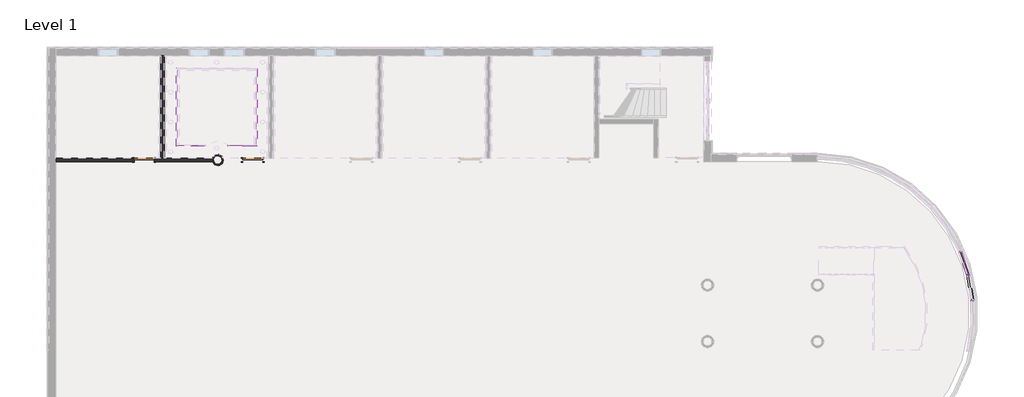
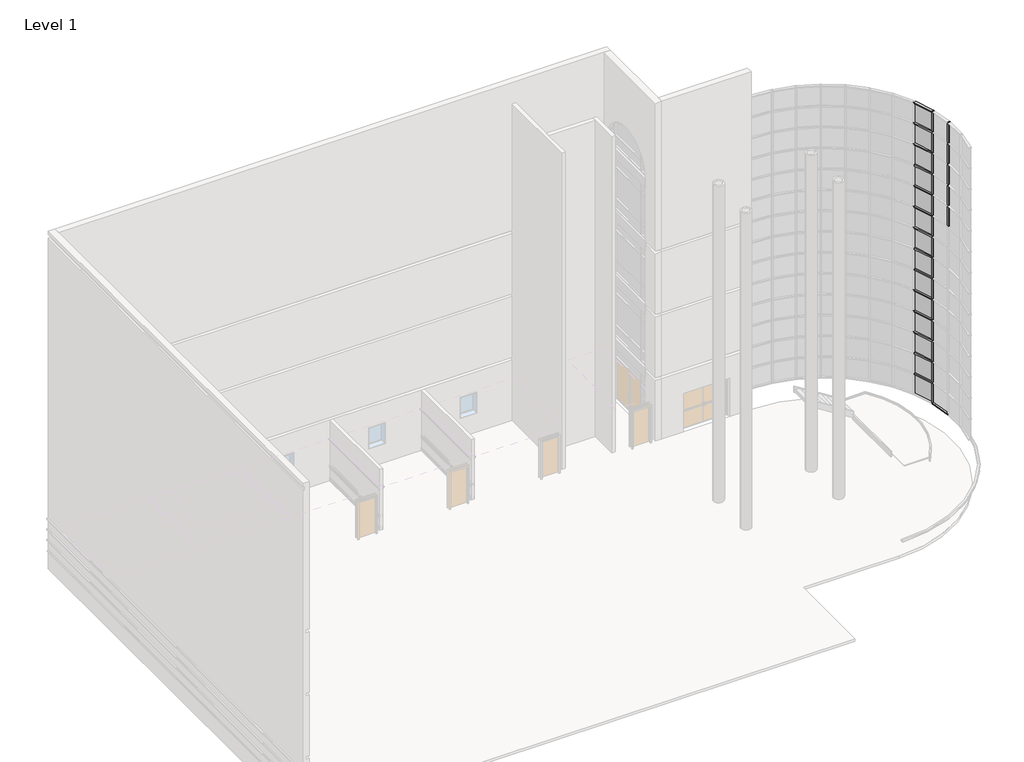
# One storey, part 9 of 20: 34 members, 14 plates, 8 walls, 2 doors.
"""IFC4 building model written with IfcOpenShell, lengths in millimetres."""

from ifc_helpers import new_model, si_unit, frame, origin, place, context, project, spatial, polyline, circle_curve, faceted_brep, transform, mapped, element, save
from ifc_brep_helpers import plane_surface, cylinder_surface, revolved_surface, advanced_brep
from components import door_f9494b7c, member_68fe8548, member_f830fa99, member_935f61b8, system_panel_glazed_da602fa6, system_panel_glazed_77fd207e

model = new_model("IFC4")

# Units and contexts
model_context = context("Model", 3, world=origin())
ifc_project = project(units=[si_unit("LENGTHUNIT", "METRE", prefix="MILLI")], contexts=[model_context])

# Site, building, storey
site = spatial("IfcSite", under=ifc_project)
building = spatial("IfcBuilding", under=site)
storey = spatial("IfcBuildingStorey", under=building, Name="Level 1", Elevation=0.0)

# Doors
placement = place(None, origin())
door_shape = door_f9494b7c(model_context)
element("IfcDoor", 1, ObjectType="Single-Flush : 36\" x 84\"", at=placement, inside=storey, context=model_context, shape_type="MappedRepresentation", body=[
    mapped(door_shape, transform((-13002.9701946, 4534.7523319, 0.0), x_axis=(1.0, 0.0, 0.0), y_axis=(0.0, 1.0, 0.0), z_axis=(0.0, 0.0, 1.0))),
])
element("IfcDoor", 2, ObjectType="Single-Flush : 36\" x 84\"", at=placement, inside=storey, context=model_context, shape_type="MappedRepresentation", body=[
    mapped(door_shape, transform((-8010.8118612, 4534.7523319, 0.0), x_axis=(1.0, 0.0, 0.0), y_axis=(0.0, 1.0, 0.0), z_axis=(0.0, 0.0, 1.0))),
])

# Members
member_shape = member_68fe8548(model_context)
element("IfcMember", 3, ObjectType="Rectangular Mullion : 2.5\" x 5\" rectangular", at=placement, inside=storey, context=model_context, shape_type="MappedRepresentation", body=[
    mapped(member_shape, transform((24848.1611453, -723.2626476, 17983.2), x_axis=(0.0, 0.0, 1.0), y_axis=(-0.9458172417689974, -0.32469946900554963, 0.0), z_axis=(0.32469946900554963, -0.9458172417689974, 0.0))),
])
element("IfcMember", 4, ObjectType="Rectangular Mullion : 2.5\" x 5\" rectangular", at=placement, inside=storey, context=model_context, shape_type="MappedRepresentation", body=[
    mapped(member_shape, transform((24863.6962317, -784.6093164, 1092.2), x_axis=(0.0, 0.0, -1.0), y_axis=(-0.9863613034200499, -0.1645945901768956, 0.0), z_axis=(-0.1645945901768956, 0.9863613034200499, 0.0))),
])
member_2_shape = member_f830fa99(model_context)
element("IfcMember", 5, ObjectType="Rectangular Mullion : 2.5\" x 5\" rectangular", at=placement, inside=storey, context=model_context, shape_type="MappedRepresentation", body=[
    mapped(member_2_shape, transform((24848.1611453, -723.2626476, 2298.7), x_axis=(0.0, 0.0, 1.0), y_axis=(-0.945817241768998, -0.32469946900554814, 0.0), z_axis=(0.32469946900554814, -0.945817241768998, 0.0))),
])
element("IfcMember", 6, ObjectType="Rectangular Mullion : 2.5\" x 5\" rectangular", at=placement, inside=storey, context=model_context, shape_type="MappedRepresentation", body=[
    mapped(member_2_shape, transform((24848.1611453, -723.2626476, 3505.2), x_axis=(0.0, 0.0, 1.0), y_axis=(-0.9458172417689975, -0.3246994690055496, 0.0), z_axis=(0.3246994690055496, -0.9458172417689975, 0.0))),
])
element("IfcMember", 7, ObjectType="Rectangular Mullion : 2.5\" x 5\" rectangular", at=placement, inside=storey, context=model_context, shape_type="MappedRepresentation", body=[
    mapped(member_2_shape, transform((24848.1611453, -723.2626476, 4711.7), x_axis=(0.0, 0.0, 1.0), y_axis=(-0.9458172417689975, -0.3246994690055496, 0.0), z_axis=(0.3246994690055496, -0.9458172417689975, 0.0))),
])
element("IfcMember", 8, ObjectType="Rectangular Mullion : 2.5\" x 5\" rectangular", at=placement, inside=storey, context=model_context, shape_type="MappedRepresentation", body=[
    mapped(member_2_shape, transform((24848.1611453, -723.2626476, 5918.2), x_axis=(0.0, 0.0, 1.0), y_axis=(-0.9458172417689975, -0.3246994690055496, 0.0), z_axis=(0.3246994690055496, -0.9458172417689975, 0.0))),
])
element("IfcMember", 9, ObjectType="Rectangular Mullion : 2.5\" x 5\" rectangular", at=placement, inside=storey, context=model_context, shape_type="MappedRepresentation", body=[
    mapped(member_2_shape, transform((24848.1611453, -723.2626476, 7124.7), x_axis=(0.0, 0.0, 1.0), y_axis=(-0.9458172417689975, -0.32469946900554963, 0.0), z_axis=(0.3246994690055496, -0.9458172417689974, 0.0))),
])
element("IfcMember", 10, ObjectType="Rectangular Mullion : 2.5\" x 5\" rectangular", at=placement, inside=storey, context=model_context, shape_type="MappedRepresentation", body=[
    mapped(member_2_shape, transform((24848.1611453, -723.2626476, 8331.2), x_axis=(0.0, 0.0, 1.0), y_axis=(-0.9458172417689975, -0.32469946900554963, 0.0), z_axis=(0.3246994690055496, -0.9458172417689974, 0.0))),
])
element("IfcMember", 11, ObjectType="Rectangular Mullion : 2.5\" x 5\" rectangular", at=placement, inside=storey, context=model_context, shape_type="MappedRepresentation", body=[
    mapped(member_2_shape, transform((24848.1611453, -723.2626476, 9537.7), x_axis=(0.0, 0.0, 1.0), y_axis=(-0.9458172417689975, -0.32469946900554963, 0.0), z_axis=(0.3246994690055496, -0.9458172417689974, 0.0))),
])
element("IfcMember", 12, ObjectType="Rectangular Mullion : 2.5\" x 5\" rectangular", at=placement, inside=storey, context=model_context, shape_type="MappedRepresentation", body=[
    mapped(member_2_shape, transform((24848.1611453, -723.2626476, 10744.2), x_axis=(0.0, 0.0, 1.0), y_axis=(-0.9458172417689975, -0.32469946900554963, 0.0), z_axis=(0.3246994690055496, -0.9458172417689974, 0.0))),
])
element("IfcMember", 13, ObjectType="Rectangular Mullion : 2.5\" x 5\" rectangular", at=placement, inside=storey, context=model_context, shape_type="MappedRepresentation", body=[
    mapped(member_2_shape, transform((24848.1611453, -723.2626476, 11950.7), x_axis=(0.0, 0.0, 1.0), y_axis=(-0.9458172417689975, -0.32469946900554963, 0.0), z_axis=(0.3246994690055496, -0.9458172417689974, 0.0))),
])
element("IfcMember", 14, ObjectType="Rectangular Mullion : 2.5\" x 5\" rectangular", at=placement, inside=storey, context=model_context, shape_type="MappedRepresentation", body=[
    mapped(member_2_shape, transform((24848.1611453, -723.2626476, 13157.2), x_axis=(0.0, 0.0, 1.0), y_axis=(-0.9458172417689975, -0.32469946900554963, 0.0), z_axis=(0.3246994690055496, -0.9458172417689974, 0.0))),
])
element("IfcMember", 15, ObjectType="Rectangular Mullion : 2.5\" x 5\" rectangular", at=placement, inside=storey, context=model_context, shape_type="MappedRepresentation", body=[
    mapped(member_2_shape, transform((24848.1611453, -723.2626476, 14363.7), x_axis=(0.0, 0.0, 1.0), y_axis=(-0.9458172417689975, -0.32469946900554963, 0.0), z_axis=(0.3246994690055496, -0.9458172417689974, 0.0))),
])
element("IfcMember", 16, ObjectType="Rectangular Mullion : 2.5\" x 5\" rectangular", at=placement, inside=storey, context=model_context, shape_type="MappedRepresentation", body=[
    mapped(member_2_shape, transform((24848.1611453, -723.2626476, 15570.2), x_axis=(0.0, 0.0, 1.0), y_axis=(-0.9458172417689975, -0.32469946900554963, 0.0), z_axis=(0.3246994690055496, -0.9458172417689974, 0.0))),
])
element("IfcMember", 17, ObjectType="Rectangular Mullion : 2.5\" x 5\" rectangular", at=placement, inside=storey, context=model_context, shape_type="MappedRepresentation", body=[
    mapped(member_2_shape, transform((24848.1611453, -723.2626476, 16776.7), x_axis=(0.0, 0.0, 1.0), y_axis=(-0.9458172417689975, -0.32469946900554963, 0.0), z_axis=(0.3246994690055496, -0.9458172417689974, 0.0))),
])
member_3_shape = member_935f61b8(model_context)
element("IfcMember", 18, ObjectType="Rectangular Mullion : 2.5\" x 5\" rectangular", at=placement, inside=storey, context=model_context, shape_type="MappedRepresentation", body=[
    mapped(member_3_shape, transform((24858.4703534, -753.292345, 1092.2), x_axis=(0.24548548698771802, -0.9694002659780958, 0.0), y_axis=(-0.9694002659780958, -0.24548548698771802, 0.0), z_axis=(0.0, 0.0, -1.0))),
])
element("IfcMember", 19, ObjectType="Rectangular Mullion : 2.5\" x 5\" rectangular", at=placement, inside=storey, context=model_context, shape_type="MappedRepresentation", body=[
    mapped(member_3_shape, transform((24858.4703534, -753.292345, 2298.7), x_axis=(0.24548548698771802, -0.9694002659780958, 0.0), y_axis=(-0.9694002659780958, -0.24548548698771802, 0.0), z_axis=(0.0, 0.0, -1.0))),
])
element("IfcMember", 20, ObjectType="Rectangular Mullion : 2.5\" x 5\" rectangular", at=placement, inside=storey, context=model_context, shape_type="MappedRepresentation", body=[
    mapped(member_3_shape, transform((24858.4703534, -753.292345, 3505.2), x_axis=(0.24548548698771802, -0.9694002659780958, 0.0), y_axis=(-0.9694002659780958, -0.24548548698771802, 0.0), z_axis=(0.0, 0.0, -1.0))),
])
element("IfcMember", 21, ObjectType="Rectangular Mullion : 2.5\" x 5\" rectangular", at=placement, inside=storey, context=model_context, shape_type="MappedRepresentation", body=[
    mapped(member_3_shape, transform((24858.4703534, -753.292345, 4711.7), x_axis=(0.24548548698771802, -0.9694002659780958, 0.0), y_axis=(-0.9694002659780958, -0.24548548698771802, 0.0), z_axis=(0.0, 0.0, -1.0))),
])
element("IfcMember", 22, ObjectType="Rectangular Mullion : 2.5\" x 5\" rectangular", at=placement, inside=storey, context=model_context, shape_type="MappedRepresentation", body=[
    mapped(member_3_shape, transform((24858.4703534, -753.292345, 5918.2), x_axis=(0.24548548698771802, -0.9694002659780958, 0.0), y_axis=(-0.9694002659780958, -0.24548548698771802, 0.0), z_axis=(0.0, 0.0, -1.0))),
])
element("IfcMember", 23, ObjectType="Rectangular Mullion : 2.5\" x 5\" rectangular", at=placement, inside=storey, context=model_context, shape_type="MappedRepresentation", body=[
    mapped(member_3_shape, transform((24858.4703534, -753.292345, 7124.7), x_axis=(0.2454854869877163, -0.9694002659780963, 0.0), y_axis=(-0.9694002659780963, -0.2454854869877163, 0.0), z_axis=(0.0, 0.0, -1.0))),
])
element("IfcMember", 24, ObjectType="Rectangular Mullion : 2.5\" x 5\" rectangular", at=placement, inside=storey, context=model_context, shape_type="MappedRepresentation", body=[
    mapped(member_3_shape, transform((24858.4703534, -753.292345, 8331.2), x_axis=(0.2454854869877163, -0.9694002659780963, 0.0), y_axis=(-0.9694002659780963, -0.2454854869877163, 0.0), z_axis=(0.0, 0.0, -1.0))),
])
element("IfcMember", 25, ObjectType="Rectangular Mullion : 2.5\" x 5\" rectangular", at=placement, inside=storey, context=model_context, shape_type="MappedRepresentation", body=[
    mapped(member_3_shape, transform((24858.4703534, -753.292345, 9537.7), x_axis=(0.2454854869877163, -0.9694002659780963, 0.0), y_axis=(-0.9694002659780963, -0.2454854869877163, 0.0), z_axis=(0.0, 0.0, -1.0))),
])
element("IfcMember", 26, ObjectType="Rectangular Mullion : 2.5\" x 5\" rectangular", at=placement, inside=storey, context=model_context, shape_type="MappedRepresentation", body=[
    mapped(member_3_shape, transform((24858.4703534, -753.292345, 10744.2), x_axis=(0.2454854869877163, -0.9694002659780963, 0.0), y_axis=(-0.9694002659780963, -0.2454854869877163, 0.0), z_axis=(0.0, 0.0, -1.0))),
])
element("IfcMember", 27, ObjectType="Rectangular Mullion : 2.5\" x 5\" rectangular", at=placement, inside=storey, context=model_context, shape_type="MappedRepresentation", body=[
    mapped(member_3_shape, transform((24858.4703534, -753.292345, 11950.7), x_axis=(0.2454854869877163, -0.9694002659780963, 0.0), y_axis=(-0.9694002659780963, -0.2454854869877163, 0.0), z_axis=(0.0, 0.0, -1.0))),
])
element("IfcMember", 28, ObjectType="Rectangular Mullion : 2.5\" x 5\" rectangular", at=placement, inside=storey, context=model_context, shape_type="MappedRepresentation", body=[
    mapped(member_3_shape, transform((25052.5382104, -1916.2772534, 11950.7), x_axis=(0.0825793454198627, -0.9965844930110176, 0.0), y_axis=(-0.9965844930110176, -0.0825793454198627, 0.0), z_axis=(0.0, 0.0, -1.0))),
])
element("IfcMember", 29, ObjectType="Rectangular Mullion : 2.5\" x 5\" rectangular", at=placement, inside=storey, context=model_context, shape_type="MappedRepresentation", body=[
    mapped(member_3_shape, transform((24858.4703534, -753.292345, 13157.2), x_axis=(0.2454854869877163, -0.9694002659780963, 0.0), y_axis=(-0.9694002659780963, -0.2454854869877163, 0.0), z_axis=(0.0, 0.0, -1.0))),
])
element("IfcMember", 30, ObjectType="Rectangular Mullion : 2.5\" x 5\" rectangular", at=placement, inside=storey, context=model_context, shape_type="MappedRepresentation", body=[
    mapped(member_3_shape, transform((25052.5382104, -1916.2772534, 13157.2), x_axis=(0.0825793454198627, -0.9965844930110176, 0.0), y_axis=(-0.9965844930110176, -0.0825793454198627, 0.0), z_axis=(0.0, 0.0, -1.0))),
])
element("IfcMember", 31, ObjectType="Rectangular Mullion : 2.5\" x 5\" rectangular", at=placement, inside=storey, context=model_context, shape_type="MappedRepresentation", body=[
    mapped(member_3_shape, transform((24858.4703534, -753.292345, 14363.7), x_axis=(0.2454854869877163, -0.9694002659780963, 0.0), y_axis=(-0.9694002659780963, -0.2454854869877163, 0.0), z_axis=(0.0, 0.0, -1.0))),
])
element("IfcMember", 32, ObjectType="Rectangular Mullion : 2.5\" x 5\" rectangular", at=placement, inside=storey, context=model_context, shape_type="MappedRepresentation", body=[
    mapped(member_3_shape, transform((25052.5382104, -1916.2772534, 14363.7), x_axis=(0.0825793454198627, -0.9965844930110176, 0.0), y_axis=(-0.9965844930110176, -0.0825793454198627, 0.0), z_axis=(0.0, 0.0, -1.0))),
])
element("IfcMember", 33, ObjectType="Rectangular Mullion : 2.5\" x 5\" rectangular", at=placement, inside=storey, context=model_context, shape_type="MappedRepresentation", body=[
    mapped(member_3_shape, transform((24858.4703534, -753.292345, 15570.2), x_axis=(0.2454854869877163, -0.9694002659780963, 0.0), y_axis=(-0.9694002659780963, -0.2454854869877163, 0.0), z_axis=(0.0, 0.0, -1.0))),
])
element("IfcMember", 34, ObjectType="Rectangular Mullion : 2.5\" x 5\" rectangular", at=placement, inside=storey, context=model_context, shape_type="MappedRepresentation", body=[
    mapped(member_3_shape, transform((25052.5382104, -1916.2772534, 15570.2), x_axis=(0.0825793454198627, -0.9965844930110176, 0.0), y_axis=(-0.9965844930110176, -0.0825793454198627, 0.0), z_axis=(0.0, 0.0, -1.0))),
])
element("IfcMember", 35, ObjectType="Rectangular Mullion : 2.5\" x 5\" rectangular", at=placement, inside=storey, context=model_context, shape_type="MappedRepresentation", body=[
    mapped(member_3_shape, transform((24858.4703534, -753.292345, 16776.7), x_axis=(0.2454854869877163, -0.9694002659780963, 0.0), y_axis=(-0.9694002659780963, -0.2454854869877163, 0.0), z_axis=(0.0, 0.0, -1.0))),
])
element("IfcMember", 36, ObjectType="Rectangular Mullion : 2.5\" x 5\" rectangular", at=placement, inside=storey, context=model_context, shape_type="MappedRepresentation", body=[
    mapped(member_3_shape, transform((25052.5382104, -1916.2772534, 16776.7), x_axis=(0.0825793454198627, -0.9965844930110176, 0.0), y_axis=(-0.9965844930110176, -0.0825793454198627, 0.0), z_axis=(0.0, 0.0, -1.0))),
])

# Plates
system_panel_glazed_shape = system_panel_glazed_da602fa6(model_context)
element("IfcPlate", 37, ObjectType="System Panel : Glazed", at=placement, inside=storey, context=model_context, shape_type="MappedRepresentation", body=[
    mapped(system_panel_glazed_shape, transform((24667.049329, -195.7019497, 1155.7), x_axis=(0.32469946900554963, -0.9458172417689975, 0.0), y_axis=(0.9458172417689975, 0.32469946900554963, 0.0), z_axis=(0.0, 0.0, 1.0))),
])
element("IfcPlate", 38, ObjectType="System Panel : Glazed", at=placement, inside=storey, context=model_context, shape_type="MappedRepresentation", body=[
    mapped(system_panel_glazed_shape, transform((24667.049329, -195.7019497, 16808.45), x_axis=(0.32469946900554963, -0.9458172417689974, 0.0), y_axis=(0.9458172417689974, 0.32469946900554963, 0.0), z_axis=(0.0, 0.0, 1.0))),
])
system_panel_glazed_2_shape = system_panel_glazed_77fd207e(model_context)
element("IfcPlate", 39, ObjectType="System Panel : Glazed", at=placement, inside=storey, context=model_context, shape_type="MappedRepresentation", body=[
    mapped(system_panel_glazed_2_shape, transform((24667.049329, -195.7019497, 2330.45), x_axis=(0.32469946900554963, -0.9458172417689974, 0.0), y_axis=(0.9458172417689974, 0.32469946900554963, 0.0), z_axis=(0.0, 0.0, 1.0))),
])
element("IfcPlate", 40, ObjectType="System Panel : Glazed", at=placement, inside=storey, context=model_context, shape_type="MappedRepresentation", body=[
    mapped(system_panel_glazed_2_shape, transform((24667.049329, -195.7019497, 3536.95), x_axis=(0.32469946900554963, -0.9458172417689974, 0.0), y_axis=(0.9458172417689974, 0.32469946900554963, 0.0), z_axis=(0.0, 0.0, 1.0))),
])
element("IfcPlate", 41, ObjectType="System Panel : Glazed", at=placement, inside=storey, context=model_context, shape_type="MappedRepresentation", body=[
    mapped(system_panel_glazed_2_shape, transform((24667.049329, -195.7019497, 4743.45), x_axis=(0.32469946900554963, -0.9458172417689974, 0.0), y_axis=(0.9458172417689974, 0.32469946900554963, 0.0), z_axis=(0.0, 0.0, 1.0))),
])
element("IfcPlate", 42, ObjectType="System Panel : Glazed", at=placement, inside=storey, context=model_context, shape_type="MappedRepresentation", body=[
    mapped(system_panel_glazed_2_shape, transform((24667.049329, -195.7019497, 5949.95), x_axis=(0.32469946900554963, -0.9458172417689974, 0.0), y_axis=(0.9458172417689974, 0.32469946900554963, 0.0), z_axis=(0.0, 0.0, 1.0))),
])
element("IfcPlate", 43, ObjectType="System Panel : Glazed", at=placement, inside=storey, context=model_context, shape_type="MappedRepresentation", body=[
    mapped(system_panel_glazed_2_shape, transform((24667.049329, -195.7019497, 7156.45), x_axis=(0.32469946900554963, -0.9458172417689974, 0.0), y_axis=(0.9458172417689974, 0.32469946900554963, 0.0), z_axis=(0.0, 0.0, 1.0))),
])
element("IfcPlate", 44, ObjectType="System Panel : Glazed", at=placement, inside=storey, context=model_context, shape_type="MappedRepresentation", body=[
    mapped(system_panel_glazed_2_shape, transform((24667.049329, -195.7019497, 8362.95), x_axis=(0.32469946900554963, -0.9458172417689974, 0.0), y_axis=(0.9458172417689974, 0.32469946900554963, 0.0), z_axis=(0.0, 0.0, 1.0))),
])
element("IfcPlate", 45, ObjectType="System Panel : Glazed", at=placement, inside=storey, context=model_context, shape_type="MappedRepresentation", body=[
    mapped(system_panel_glazed_2_shape, transform((24667.049329, -195.7019497, 9569.45), x_axis=(0.32469946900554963, -0.9458172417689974, 0.0), y_axis=(0.9458172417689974, 0.32469946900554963, 0.0), z_axis=(0.0, 0.0, 1.0))),
])
element("IfcPlate", 46, ObjectType="System Panel : Glazed", at=placement, inside=storey, context=model_context, shape_type="MappedRepresentation", body=[
    mapped(system_panel_glazed_2_shape, transform((24667.049329, -195.7019497, 10775.95), x_axis=(0.32469946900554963, -0.9458172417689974, 0.0), y_axis=(0.9458172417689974, 0.32469946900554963, 0.0), z_axis=(0.0, 0.0, 1.0))),
])
element("IfcPlate", 47, ObjectType="System Panel : Glazed", at=placement, inside=storey, context=model_context, shape_type="MappedRepresentation", body=[
    mapped(system_panel_glazed_2_shape, transform((24667.049329, -195.7019497, 11982.45), x_axis=(0.32469946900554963, -0.9458172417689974, 0.0), y_axis=(0.9458172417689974, 0.32469946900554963, 0.0), z_axis=(0.0, 0.0, 1.0))),
])
element("IfcPlate", 48, ObjectType="System Panel : Glazed", at=placement, inside=storey, context=model_context, shape_type="MappedRepresentation", body=[
    mapped(system_panel_glazed_2_shape, transform((24667.049329, -195.7019497, 13188.95), x_axis=(0.32469946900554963, -0.9458172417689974, 0.0), y_axis=(0.9458172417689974, 0.32469946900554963, 0.0), z_axis=(0.0, 0.0, 1.0))),
])
element("IfcPlate", 49, ObjectType="System Panel : Glazed", at=placement, inside=storey, context=model_context, shape_type="MappedRepresentation", body=[
    mapped(system_panel_glazed_2_shape, transform((24667.049329, -195.7019497, 14395.45), x_axis=(0.32469946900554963, -0.9458172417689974, 0.0), y_axis=(0.9458172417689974, 0.32469946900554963, 0.0), z_axis=(0.0, 0.0, 1.0))),
])
element("IfcPlate", 50, ObjectType="System Panel : Glazed", at=placement, inside=storey, context=model_context, shape_type="MappedRepresentation", body=[
    mapped(system_panel_glazed_2_shape, transform((24667.049329, -195.7019497, 15601.95), x_axis=(0.32469946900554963, -0.9458172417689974, 0.0), y_axis=(0.9458172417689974, 0.32469946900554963, 0.0), z_axis=(0.0, 0.0, 1.0))),
])

# Walls
element("IfcWall", 51, ObjectType="Interior - 6 1/8\" Partition (2-hr)", at=placement, inside=storey, context=model_context, shape_type="Brep", body=[
    faceted_brep([(-12085.3951946, 4612.5398319, 0.0), (-12085.3951946, 9333.7648319, 0.0), (-12085.3951946, 9333.7648319, 25.4), (-12085.3951946, 9333.7648319, 139.7), (-12085.3951946, 9333.7648319, 184.15), (-12085.3951946, 9333.7648319, 762.0), (-12085.3951946, 9333.7648319, 779.4625), (-12085.3951946, 9333.7648319, 884.2375), (-12085.3951946, 9333.7648319, 901.7), (-12085.3951946, 9333.7648319, 2327.275), (-12085.3951946, 9333.7648319, 2351.8919306), (-12085.3951946, 9333.7648319, 3505.2), (-12085.3951946, 4612.5398319, 3505.2), (-12085.3951946, 4612.5398319, 2351.8919306), (-12085.3951946, 4612.5398319, 2327.275), (-12085.3951946, 4612.5398319, 901.7), (-12085.3951946, 4612.5398319, 884.2375), (-12085.3951946, 4612.5398319, 779.4625), (-12085.3951946, 4612.5398319, 762.0), (-12085.3951946, 4612.5398319, 184.15), (-12085.3951946, 4612.5398319, 139.7), (-12085.3951946, 4612.5398319, 25.4), (-12240.9701946, 4612.5398319, 0.0), (-12240.9701946, 4612.5398319, 25.4), (-12240.9701946, 4612.5398319, 139.7), (-12240.9701946, 4612.5398319, 184.15), (-12240.9701946, 4612.5398319, 762.0), (-12240.9701946, 4612.5398319, 779.4625), (-12240.9701946, 4612.5398319, 884.2375), (-12240.9701946, 4612.5398319, 901.7), (-12240.9701946, 4612.5398319, 2327.275), (-12240.9701946, 4612.5398319, 2351.8919306), (-12240.9701946, 4612.5398319, 3505.2), (-12240.9701946, 9333.7648319, 3505.2), (-12240.9701946, 9333.7648319, 2351.8919306), (-12240.9701946, 9333.7648319, 2327.275), (-12240.9701946, 9333.7648319, 901.7), (-12240.9701946, 9333.7648319, 884.2375), (-12240.9701946, 9333.7648319, 779.4625), (-12240.9701946, 9333.7648319, 762.0), (-12240.9701946, 9333.7648319, 184.15), (-12240.9701946, 9333.7648319, 139.7), (-12240.9701946, 9333.7648319, 25.4), (-12240.9701946, 9333.7648319, 0.0)], [[[0, 1, 2, 3, 4, 5, 6, 7, 8, 9, 10, 11, 12, 13, 14, 15, 16, 17, 18, 19, 20, 21]], [[22, 23, 24, 25, 26, 27, 28, 29, 30, 31, 32, 33, 34, 35, 36, 37, 38, 39, 40, 41, 42, 43]], [[1, 0, 22, 43]], [[0, 21, 20, 19, 18, 17, 16, 15, 14, 13, 12, 32, 31, 30, 29, 28, 27, 26, 25, 24, 23, 22]], [[11, 10, 9, 8, 7, 6, 5, 4, 3, 2, 1, 43, 42, 41, 40, 39, 38, 37, 36, 35, 34, 33]], [[12, 11, 33, 32]]]),
])
element("IfcWall", 52, ObjectType="Interior - 6 1/8\" Partition (2-hr)", at=placement, inside=storey, context=model_context, shape_type="AdvancedBrep", body=[
    advanced_brep(
    [(-17066.4410279, 4612.5398319, 3505.2), (-12240.9701946, 4612.5398319, 3505.2), (-12085.3951946, 4612.5398319, 3505.2), (-9874.4362328, 4612.5398319, 3505.2), (-9874.4362328, 4612.5398319, 2351.8919306), (-9874.4362328, 4612.5398319, 2327.275), (-9874.4362328, 4612.5398319, 901.7), (-9874.4362328, 4612.5398319, 884.2375), (-9874.4362328, 4612.5398319, 779.4625), (-9874.4362328, 4612.5398319, 762.0), (-9874.4362328, 4612.5398319, 184.15), (-9874.4362328, 4612.5398319, 139.7), (-9874.4362328, 4612.5398319, 25.4), (-9874.4362328, 4612.5398319, 0.0), (-12085.3951946, 4612.5398319, 0.0), (-12240.9701946, 4612.5398319, 0.0), (-12545.7701946, 4612.5398319, 0.0), (-12545.7701946, 4612.5398319, 25.4), (-12545.7701946, 4612.5398319, 139.7), (-12545.7701946, 4612.5398319, 184.15), (-12545.7701946, 4612.5398319, 762.0), (-12545.7701946, 4612.5398319, 779.4625), (-12545.7701946, 4612.5398319, 884.2375), (-12545.7701946, 4612.5398319, 901.7), (-12545.7701946, 4612.5398319, 2133.6), (-13460.1701946, 4612.5398319, 2133.6), (-13460.1701946, 4612.5398319, 901.7), (-13460.1701946, 4612.5398319, 884.2375), (-13460.1701946, 4612.5398319, 779.4625), (-13460.1701946, 4612.5398319, 762.0), (-13460.1701946, 4612.5398319, 184.15), (-13460.1701946, 4612.5398319, 139.7), (-13460.1701946, 4612.5398319, 25.4), (-13460.1701946, 4612.5398319, 0.0), (-17066.4410279, 4612.5398319, 0.0), (-17066.4410279, 4612.5398319, 25.4), (-17066.4410279, 4612.5398319, 139.7), (-17066.4410279, 4612.5398319, 184.15), (-17066.4410279, 4612.5398319, 762.0), (-17066.4410279, 4612.5398319, 779.4625), (-17066.4410279, 4612.5398319, 884.2375), (-17066.4410279, 4612.5398319, 901.7), (-17066.4410279, 4612.5398319, 2327.275), (-17066.4410279, 4612.5398319, 2351.8919306), (-13408.8410279, 4456.9648319, 3505.2), (-17066.4410279, 4456.9648319, 3505.2), (-17066.4410279, 4456.9648319, 2351.8919306), (-17066.4410279, 4456.9648319, 2327.275), (-17066.4410279, 4456.9648319, 901.7), (-17066.4410279, 4456.9648319, 884.2375), (-17066.4410279, 4456.9648319, 779.4625), (-17066.4410279, 4456.9648319, 762.0), (-17066.4410279, 4456.9648319, 184.15), (-17066.4410279, 4456.9648319, 139.7), (-17066.4410279, 4456.9648319, 25.4), (-17066.4410279, 4456.9648319, 0.0), (-13460.1701946, 4456.9648319, 0.0), (-13460.1701946, 4456.9648319, 25.4), (-13460.1701946, 4456.9648319, 139.7), (-13460.1701946, 4456.9648319, 184.15), (-13460.1701946, 4456.9648319, 762.0), (-13460.1701946, 4456.9648319, 779.4625), (-13460.1701946, 4456.9648319, 884.2375), (-13460.1701946, 4456.9648319, 901.7), (-13460.1701946, 4456.9648319, 2133.6), (-12545.7701946, 4456.9648319, 2133.6), (-12545.7701946, 4456.9648319, 901.7), (-12545.7701946, 4456.9648319, 884.2375), (-12545.7701946, 4456.9648319, 779.4625), (-12545.7701946, 4456.9648319, 762.0), (-12545.7701946, 4456.9648319, 184.15), (-12545.7701946, 4456.9648319, 139.7), (-12545.7701946, 4456.9648319, 25.4), (-12545.7701946, 4456.9648319, 0.0), (-9874.4362328, 4456.9648319, 0.0), (-9874.4362328, 4456.9648319, 25.4), (-9874.4362328, 4456.9648319, 139.7), (-9874.4362328, 4456.9648319, 184.15), (-9874.4362328, 4456.9648319, 762.0), (-9874.4362328, 4456.9648319, 779.4625), (-9874.4362328, 4456.9648319, 884.2375), (-9874.4362328, 4456.9648319, 901.7), (-9874.4362328, 4456.9648319, 2327.275), (-9874.4362328, 4456.9648319, 2351.8919306), (-9874.4362328, 4456.9648319, 3505.2), (-17066.4410279, 4510.9398319, 3505.2), (-13408.8410279, 4510.9398319, 3505.2), (-9885.1004568, 4510.9398319, 3505.2)],
    [
        (0, 1),
        (1, 2),
        (2, 3),
        (3, 4),
        (4, 5),
        (5, 6),
        (6, 7),
        (7, 8),
        (8, 9),
        (9, 10),
        (10, 11),
        (11, 12),
        (12, 13),
        (13, 14),
        (14, 15),
        (15, 16),
        (16, 17),
        (17, 18),
        (18, 19),
        (19, 20),
        (20, 21),
        (21, 22),
        (22, 23),
        (23, 24),
        (24, 25),
        (25, 26),
        (26, 27),
        (27, 28),
        (28, 29),
        (29, 30),
        (30, 31),
        (31, 32),
        (32, 33),
        (33, 34),
        (34, 35),
        (35, 36),
        (36, 37),
        (37, 38),
        (38, 39),
        (39, 40),
        (40, 41),
        (41, 42),
        (42, 43),
        (43, 0),
        (44, 45),
        (45, 46),
        (46, 47),
        (47, 48),
        (48, 49),
        (49, 50),
        (50, 51),
        (51, 52),
        (52, 53),
        (53, 54),
        (54, 55),
        (55, 56),
        (56, 57),
        (57, 58),
        (58, 59),
        (59, 60),
        (60, 61),
        (61, 62),
        (62, 63),
        (63, 64),
        (64, 65),
        (65, 66),
        (66, 67),
        (67, 68),
        (68, 69),
        (69, 70),
        (70, 71),
        (71, 72),
        (72, 73),
        (73, 74),
        (74, 75),
        (75, 76),
        (76, 77),
        (77, 78),
        (78, 79),
        (79, 80),
        (80, 81),
        (81, 82),
        (82, 83),
        (83, 84),
        (84, 44),
        (55, 34),
        (33, 56),
        (73, 16),
        (13, 74, circle_curve(frame((-9622.6535279, 4534.7523319, 0.0), z_axis=(0.0, 0.0, 1.0), x_axis=(1.0, 0.0, 0.0)), 263.525)),
        (45, 85),
        (85, 0),
        (44, 86),
        (86, 85),
        (84, 87, circle_curve(frame((-9622.6535279, 4534.7523319, 3505.2), z_axis=(0.0, 0.0, -1.0), x_axis=(1.0, 0.0, 0.0)), 263.525)),
        (87, 3, circle_curve(frame((-9622.6535279, 4534.7523319, 3505.2), z_axis=(0.0, 0.0, -1.0), x_axis=(1.0, 0.0, 0.0)), 263.525)),
        (25, 64),
        (24, 65),
    ],
    [
        plane_surface(frame((12457.8725074, 4612.5398319, 0.0), z_axis=(0.0, 1.0, 0.0), x_axis=(-1.0, 0.0, 0.0))),
        plane_surface(frame((12457.8725074, 4456.9648319, 0.0), z_axis=(0.0, -1.0, 0.0), x_axis=(1.0, 0.0, 0.0))),
        plane_surface(frame((-9856.0160279, 4612.5398319, 0.0), z_axis=(0.0, 0.0, -1.0), x_axis=(0.0, -1.0, 0.0))),
        plane_surface(frame((-17066.4410279, -14697.8101681, 0.0), z_axis=(-1.0, 0.0, 0.0), x_axis=(0.0, 1.0, 0.0))),
        plane_surface(frame((18023.4049721, 2628.1648319, 3505.2), z_axis=(0.0, 0.0, 1.0), x_axis=(0.0, -1.0, 0.0))),
        plane_surface(frame((-13408.8410279, -9522.5601681, 3505.2), z_axis=(0.0, 0.0, 1.0), x_axis=(1.0, 0.0, 0.0))),
        plane_surface(frame((-13460.1701946, 4612.5398319, 2133.6), z_axis=(1.0, 0.0, 0.0), x_axis=(0.0, -1.0, 0.0))),
        plane_surface(frame((-12545.7701946, 4612.5398319, 2133.6), z_axis=(0.0, 0.0, -1.0), x_axis=(0.0, -1.0, 0.0))),
        plane_surface(frame((-12545.7701946, 4612.5398319, 0.0), z_axis=(-1.0, 0.0, 0.0), x_axis=(0.0, -1.0, 0.0))),
        revolved_surface(polyline([(-9359.1285279, 4534.7523319, 3505.2), (-9359.1285279, 4534.7523319, 0.0)]), (-9622.6535279, 4534.7523319, 0.0), (0.0, 0.0, 1.0)),
    ],
    [
        (0, [[1, 2, 3, 4, 5, 6, 7, 8, 9, 10, 11, 12, 13, 14, 15, 16, 17, 18, 19, 20, 21, 22, 23, 24, 25, 26, 27, 28, 29, 30, 31, 32, 33, 34, 35, 36, 37, 38, 39, 40, 41, 42, 43, 44]]),
        (1, [[45, 46, 47, 48, 49, 50, 51, 52, 53, 54, 55, 56, 57, 58, 59, 60, 61, 62, 63, 64, 65, 66, 67, 68, 69, 70, 71, 72, 73, 74, 75, 76, 77, 78, 79, 80, 81, 82, 83, 84, 85]]),
        (2, [[86, -34, 87, -56]]),
        (2, [[88, -16, -15, -14, 89, -74]]),
        (3, [[-86, -55, -54, -53, -52, -51, -50, -49, -48, -47, -46, 90, 91, -44, -43, -42, -41, -40, -39, -38, -37, -36, -35]]),
        (4, [[-90, -45, 92, 93]]),
        (5, [[-3, -2, -1, -91, -93, -92, -85, 94, 95]]),
        (6, [[-87, -33, -32, -31, -30, -29, -28, -27, -26, 96, -64, -63, -62, -61, -60, -59, -58, -57]]),
        (7, [[-25, 97, -65, -96]]),
        (8, [[-97, -24, -23, -22, -21, -20, -19, -18, -17, -88, -73, -72, -71, -70, -69, -68, -67, -66]]),
        (9, [[-89, -13, -12, -11, -10, -9, -8, -7, -6, -5, -4, -95, -94, -84, -83, -82, -81, -80, -79, -78, -77, -76, -75]]),
    ],
),
])
element("IfcWall", 53, ObjectType="Interior - Column Wrap", at=placement, inside=storey, context=model_context, shape_type="AdvancedBrep", body=[
    advanced_brep(
    [(-9810.3749834, 4456.9648319, 3657.6), (-9419.4535279, 4534.7523319, 3657.6), (-9359.1285279, 4534.7523319, 3657.6), (-9874.4362328, 4456.9648319, 3657.6), (-9419.4535279, 4534.7523319, 0.0), (-9810.3749834, 4456.9648319, 0.0), (-9874.4362328, 4456.9648319, 0.0), (-9874.4362328, 4612.5398319, 0.0), (-9370.870823, 4612.5398319, 0.0), (-9359.1285279, 4534.7523319, 0.0), (-9874.4362328, 4456.9648319, 3505.2)],
    [
        (0, 1, circle_curve(frame((-9622.6535279, 4534.7523319, 3657.6), z_axis=(0.0, 0.0, -1.0), x_axis=(1.0, 0.0, 0.0)), 203.2)),
        (1, 2),
        (2, 3, circle_curve(frame((-9622.6535279, 4534.7523319, 3657.6), z_axis=(0.0, 0.0, 1.0), x_axis=(1.0, 0.0, 0.0)), 263.525)),
        (3, 0),
        (4, 5, circle_curve(frame((-9622.6535279, 4534.7523319, 0.0), z_axis=(0.0, 0.0, 1.0), x_axis=(1.0, 0.0, 0.0)), 203.2)),
        (5, 6),
        (6, 7, circle_curve(frame((-9622.6535279, 4534.7523319, 0.0), z_axis=(0.0, 0.0, -1.0), x_axis=(1.0, 0.0, 0.0)), 263.525)),
        (7, 8, circle_curve(frame((-9622.6535279, 4534.7523319, 0.0), z_axis=(0.0, 0.0, -1.0), x_axis=(1.0, 0.0, 0.0)), 263.525)),
        (8, 9, circle_curve(frame((-9622.6535279, 4534.7523319, 0.0), z_axis=(0.0, 0.0, -1.0), x_axis=(1.0, 0.0, 0.0)), 263.525)),
        (9, 4),
        (0, 5),
        (4, 1),
        (9, 2),
        (6, 10),
        (10, 3),
    ],
    [
        plane_surface(frame((-9419.4535279, 4534.7523319, 3657.6), z_axis=(0.0, 0.0, 1.0), x_axis=(0.0, -1.0, 0.0))),
        plane_surface(frame((-9419.4535279, 4534.7523319, 0.0), z_axis=(0.0, 0.0, -1.0), x_axis=(0.0, 1.0, 0.0))),
        revolved_surface(polyline([(-9419.4535279, 4534.7523319, 0.0), (-9419.4535279, 4534.7523319, 3657.6)]), (-9622.6535279, 4534.7523319, 0.0), (0.0, 0.0, -1.0)),
        plane_surface(frame((-9419.4535279, 4534.7523319, 3657.6), z_axis=(0.0, -1.0, 0.0), x_axis=(0.0, 0.0, -1.0))),
        cylinder_surface(frame((-9622.6535279, 4534.7523319, 0.0), z_axis=(0.0, 0.0, 1.0), x_axis=(1.0, 0.0, 0.0)), 263.525),
        plane_surface(frame((12457.8725074, 4456.9648319, 0.0), z_axis=(0.0, -1.0, 0.0), x_axis=(1.0, 0.0, 0.0))),
    ],
    [
        (0, [[1, 2, 3, 4]]),
        (1, [[5, 6, 7, 8, 9, 10]]),
        (2, [[-1, 11, -5, 12]]),
        (3, [[-2, -12, -10, 13]]),
        (4, [[-3, -13, -9, -8, -7, 14, 15]]),
        (5, [[-4, -15, -14, -6, -11]]),
    ],
),
])
element("IfcWall", 54, ObjectType="Interior - Column Wrap", at=placement, inside=storey, context=model_context, shape_type="AdvancedBrep", body=[
    advanced_brep(
    [(-9419.4535279, 4534.7523319, 3657.6), (-9810.3749834, 4456.9648319, 3657.6), (-9874.4362328, 4456.9648319, 3657.6), (-9359.1285279, 4534.7523319, 3657.6), (-9810.3749834, 4456.9648319, 0.0), (-9419.4535279, 4534.7523319, 0.0), (-9359.1285279, 4534.7523319, 0.0), (-9370.870823, 4456.9648319, 0.0), (-9874.4362328, 4456.9648319, 0.0), (-9874.4362328, 4456.9648319, 2351.8919306), (-9874.4362328, 4456.9648319, 2327.275), (-9874.4362328, 4456.9648319, 901.7), (-9874.4362328, 4456.9648319, 884.2375), (-9874.4362328, 4456.9648319, 779.4625), (-9874.4362328, 4456.9648319, 762.0), (-9874.4362328, 4456.9648319, 184.15), (-9874.4362328, 4456.9648319, 139.7), (-9874.4362328, 4456.9648319, 25.4)],
    [
        (0, 1, circle_curve(frame((-9622.6535279, 4534.7523319, 3657.6), z_axis=(0.0, 0.0, -1.0), x_axis=(1.0, 0.0, 0.0)), 203.2)),
        (1, 2),
        (2, 3, circle_curve(frame((-9622.6535279, 4534.7523319, 3657.6), z_axis=(0.0, 0.0, 1.0), x_axis=(1.0, 0.0, 0.0)), 263.525)),
        (3, 0),
        (4, 5, circle_curve(frame((-9622.6535279, 4534.7523319, 0.0), z_axis=(0.0, 0.0, 1.0), x_axis=(1.0, 0.0, 0.0)), 203.2)),
        (5, 6),
        (6, 7, circle_curve(frame((-9622.6535279, 4534.7523319, 0.0), z_axis=(0.0, 0.0, -1.0), x_axis=(1.0, 0.0, 0.0)), 263.525)),
        (7, 8, circle_curve(frame((-9622.6535279, 4534.7523319, 0.0), z_axis=(0.0, 0.0, -1.0), x_axis=(1.0, 0.0, 0.0)), 263.525)),
        (8, 4),
        (0, 5),
        (4, 1),
        (2, 9),
        (9, 10),
        (10, 11),
        (11, 12),
        (12, 13),
        (13, 14),
        (14, 15),
        (15, 16),
        (16, 17),
        (17, 8),
        (6, 3),
    ],
    [
        plane_surface(frame((-9419.4535279, 4534.7523319, 3657.6), z_axis=(0.0, 0.0, 1.0), x_axis=(0.0, -1.0, 0.0))),
        plane_surface(frame((-9419.4535279, 4534.7523319, 0.0), z_axis=(0.0, 0.0, -1.0), x_axis=(0.0, 1.0, 0.0))),
        revolved_surface(polyline([(-9419.4535279, 4534.7523319, 0.0), (-9419.4535279, 4534.7523319, 3657.6)]), (-9622.6535279, 4534.7523319, 0.0), (0.0, 0.0, -1.0)),
        cylinder_surface(frame((-9622.6535279, 4534.7523319, 0.0), z_axis=(0.0, 0.0, 1.0), x_axis=(1.0, 0.0, 0.0)), 263.525),
        plane_surface(frame((-9359.1285279, 4534.7523319, 3657.6), z_axis=(0.0, 1.0, 0.0), x_axis=(0.0, 0.0, -1.0))),
        plane_surface(frame((12457.8725074, 4456.9648319, 0.0), z_axis=(0.0, 1.0, 0.0), x_axis=(1.0, 0.0, 0.0))),
    ],
    [
        (0, [[1, 2, 3, 4]]),
        (1, [[5, 6, 7, 8, 9]]),
        (2, [[-1, 10, -5, 11]]),
        (3, [[-3, 12, 13, 14, 15, 16, 17, 18, 19, 20, 21, -8, -7, 22]]),
        (4, [[-4, -22, -6, -10]]),
        (5, [[-2, -11, -9, -21, -20, -19, -18, -17, -16, -15, -14, -13, -12]]),
    ],
),
])
element("IfcWall", 55, ObjectType="Interior -Soffit", at=placement, inside=storey, context=model_context, shape_type="Brep", body=[
    faceted_brep([(-11475.7951946, 8784.4898319, 3505.2), (-11475.7951946, 8724.1648319, 3505.2), (-11475.7951946, 5161.8148319, 3505.2), (-11475.7951946, 5161.8148319, 2546.35), (-11475.7951946, 5222.1398319, 2546.35), (-11475.7951946, 8724.1648319, 2546.35), (-11475.7951946, 8784.4898319, 2546.35), (-11536.1201946, 5161.8148319, 3505.2), (-11536.1201946, 8784.4898319, 3505.2), (-11536.1201946, 8784.4898319, 2546.35), (-11536.1201946, 5161.8148319, 2546.35)], [[[0, 1, 2, 3, 4, 5, 6]], [[7, 8, 9, 10]], [[8, 0, 6, 9]], [[2, 7, 10, 3]], [[2, 1, 0, 8, 7]], [[6, 5, 4, 3, 10, 9]]]),
])
element("IfcWall", 56, ObjectType="Interior -Soffit", at=placement, inside=storey, context=model_context, shape_type="Brep", body=[
    faceted_brep([(-7858.4118612, 5161.8148319, 3505.2), (-7858.4118612, 8724.1648319, 3505.2), (-7858.4118612, 8724.1648319, 2546.35), (-7858.4118612, 5222.1398319, 2546.35), (-7858.4118612, 5161.8148319, 2546.35), (-7798.0868612, 8724.1648319, 3505.2), (-7798.0868612, 5161.8148319, 3505.2), (-7798.0868612, 5161.8148319, 2546.35), (-7798.0868612, 8724.1648319, 2546.35)], [[[0, 1, 2, 3, 4]], [[5, 6, 7, 8]], [[1, 5, 8, 2]], [[6, 0, 4, 7]], [[1, 0, 6, 5]], [[4, 3, 2, 8, 7]]]),
])
element("IfcWall", 57, ObjectType="Interior -Soffit", at=placement, inside=storey, context=model_context, shape_type="AdvancedBrep", body=[
    advanced_brep(
    [(-9188.8998365, 5222.1398319, 3657.6), (-9084.2803391, 5222.1398319, 3657.6), (-7858.4118612, 5222.1398319, 3657.6), (-7858.4118612, 5222.1398319, 2809.0919306), (-7858.4118612, 5222.1398319, 2784.475), (-7858.4118612, 5222.1398319, 2578.1), (-7858.4118612, 5222.1398319, 2560.6375), (-7858.4118612, 5222.1398319, 2546.35), (-9084.2803391, 5222.1398319, 2546.35), (-9188.8998365, 5222.1398319, 2546.35), (-7858.4118612, 5161.8148319, 3657.6), (-9105.5109353, 5161.8148319, 3657.6), (-9105.5109353, 5161.8148319, 2546.35), (-7858.4118612, 5161.8148319, 2546.35), (-7858.4118612, 5161.8148319, 3505.2)],
    [
        (0, 1),
        (1, 2),
        (2, 3),
        (3, 4),
        (4, 5),
        (5, 6),
        (6, 7),
        (7, 8),
        (8, 9),
        (9, 0),
        (10, 11),
        (11, 12),
        (12, 13),
        (13, 14),
        (14, 10),
        (0, 11, circle_curve(frame((-9622.6535279, 4534.7523319, 3657.6), z_axis=(0.0, 0.0, -1.0), x_axis=(1.0, 0.0, 0.0)), 812.8)),
        (10, 2),
        (13, 7),
        (9, 12, circle_curve(frame((-9622.6535279, 4534.7523319, 2546.35), z_axis=(0.0, 0.0, -1.0), x_axis=(1.0, 0.0, 0.0)), 812.8)),
    ],
    [
        plane_surface(frame((-7858.4118612, 5222.1398319, 2438.4), z_axis=(0.0, 1.0, 0.0), x_axis=(-1.0, 0.0, 0.0))),
        plane_surface(frame((-7858.4118612, 5161.8148319, 2438.4), z_axis=(0.0, -1.0, 0.0), x_axis=(1.0, 0.0, 0.0))),
        plane_surface(frame((-9094.7888902, 5222.1398319, 3657.6), z_axis=(0.0, 0.0, 1.0), x_axis=(0.0, -1.0, 0.0))),
        plane_surface(frame((-7858.4118612, 8724.1648319, 2438.4), z_axis=(1.0, 0.0, 0.0), x_axis=(0.0, -1.0, 0.0))),
        revolved_surface(polyline([(-8809.8535279, 4534.7523319, 2546.35), (-8809.8535279, 4534.7523319, 3657.6)]), (-9622.6535279, 4534.7523319, 2438.4), (0.0, 0.0, -1.0)),
        plane_surface(frame((-12085.3951946, 4534.7523319, 2546.35), z_axis=(0.0, 0.0, -1.0), x_axis=(0.0, -1.0, 0.0))),
    ],
    [
        (0, [[1, 2, 3, 4, 5, 6, 7, 8, 9, 10]]),
        (1, [[11, 12, 13, 14, 15]]),
        (2, [[-2, -1, 16, -11, 17]]),
        (3, [[-17, -15, -14, 18, -7, -6, -5, -4, -3]]),
        (4, [[-16, -10, 19, -12]]),
        (5, [[-9, -8, -18, -13, -19]]),
    ],
),
])
element("IfcWall", 58, ObjectType="Interior -Soffit", at=placement, inside=storey, context=model_context, shape_type="AdvancedBrep", body=[
    advanced_brep(
    [(-11475.7951946, 5222.1398319, 3657.6), (-10161.0267167, 5222.1398319, 3657.6), (-10161.0267167, 5222.1398319, 2809.0919306), (-10161.0267167, 5222.1398319, 2784.475), (-10161.0267167, 5222.1398319, 2578.1), (-10161.0267167, 5222.1398319, 2560.6375), (-10161.0267167, 5222.1398319, 2546.35), (-11475.7951946, 5222.1398319, 2546.35), (-11475.7951946, 5222.1398319, 2560.6375), (-11475.7951946, 5222.1398319, 2578.1), (-11475.7951946, 5222.1398319, 2784.475), (-11475.7951946, 5222.1398319, 2809.0919306), (-10230.2223608, 5161.8148319, 3657.6), (-11475.7951946, 5161.8148319, 3657.6), (-11475.7951946, 5161.8148319, 3505.2), (-11475.7951946, 5161.8148319, 2546.35), (-10230.2223608, 5161.8148319, 2546.35)],
    [
        (0, 1),
        (1, 2),
        (2, 3),
        (3, 4),
        (4, 5),
        (5, 6),
        (6, 7),
        (7, 8),
        (8, 9),
        (9, 10),
        (10, 11),
        (11, 0),
        (12, 13),
        (13, 14),
        (14, 15),
        (15, 16),
        (16, 12),
        (0, 13),
        (12, 1, circle_curve(frame((-9622.6535279, 4534.7523319, 3657.6), z_axis=(0.0, 0.0, -1.0), x_axis=(1.0, 0.0, 0.0)), 873.125)),
        (16, 6, circle_curve(frame((-9622.6535279, 4534.7523319, 2546.35), z_axis=(0.0, 0.0, -1.0), x_axis=(1.0, 0.0, 0.0)), 873.125)),
        (7, 15),
    ],
    [
        plane_surface(frame((-10161.0267167, 5222.1398319, 2438.4), z_axis=(0.0, 1.0, 0.0), x_axis=(-1.0, 0.0, 0.0))),
        plane_surface(frame((-10161.0267167, 5161.8148319, 2438.4), z_axis=(0.0, -1.0, 0.0), x_axis=(1.0, 0.0, 0.0))),
        plane_surface(frame((-11505.9576946, 5222.1398319, 3657.6), z_axis=(0.0, 0.0, 1.0), x_axis=(0.0, -1.0, 0.0))),
        revolved_surface(polyline([(-8749.5285279, 4534.7523319, 3657.6), (-8749.5285279, 4534.7523319, 2546.35)]), (-9622.6535279, 4534.7523319, 2438.4), (0.0, 0.0, 1.0)),
        plane_surface(frame((-11475.7951946, 5222.1398319, 2438.4), z_axis=(-1.0, 0.0, 0.0), x_axis=(0.0, 1.0, 0.0))),
        plane_surface(frame((-12085.3951946, 4534.7523319, 2546.35), z_axis=(0.0, 0.0, -1.0), x_axis=(0.0, -1.0, 0.0))),
    ],
    [
        (0, [[1, 2, 3, 4, 5, 6, 7, 8, 9, 10, 11, 12]]),
        (1, [[13, 14, 15, 16, 17]]),
        (2, [[-1, 18, -13, 19]]),
        (3, [[-19, -17, 20, -6, -5, -4, -3, -2]]),
        (4, [[-18, -12, -11, -10, -9, -8, 21, -15, -14]]),
        (5, [[-7, -20, -16, -21]]),
    ],
),
])

save(model, "model.ifc")
